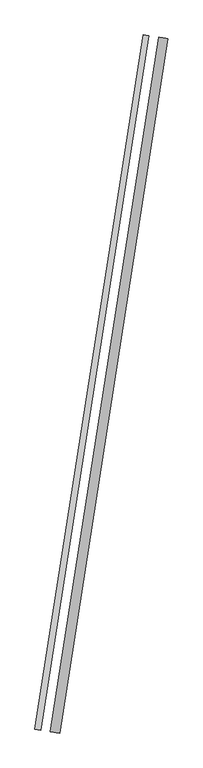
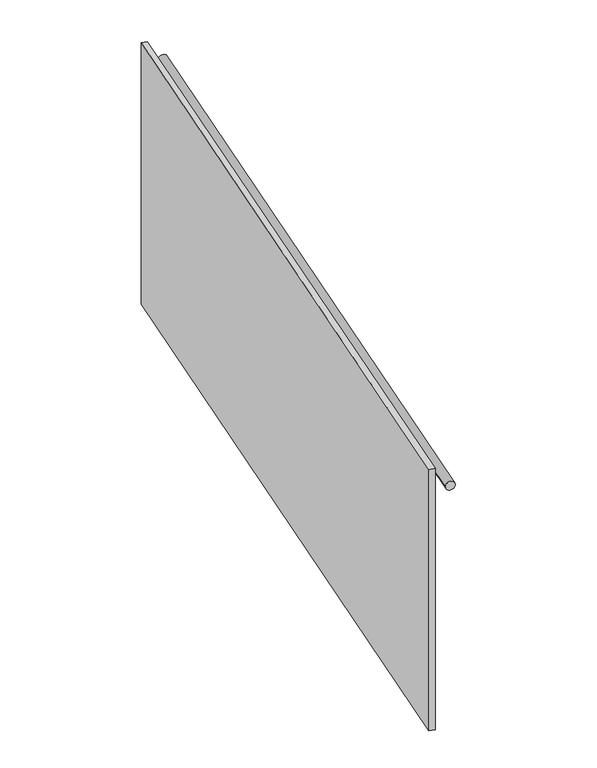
"""IFC4 building model written with IfcOpenShell, lengths in millimetres: railing geometry, Panel de vidrio - balcón."""

from ifc_helpers import new_model, si_unit, point, frame, origin, origin_2d, place, context, project, spatial, polyline, circle_curve, trimmed, segment, composite_curve, outline, extrude, source, transform, mapped, element, save


def railing_df676cf8(model_context):
    return source(origin(), model_context, "Body", "SweptSolid", [
        extrude(outline(polyline([(-52214.0917128, -76474.5084618), (-52189.3899801, -76478.3587086), (-52651.4195993, -79442.5666113), (-52676.121332, -79438.7163645), (-52214.0917128, -76474.5084618)])), frame((0.0, 0.0, 2945.385397), z_axis=(0.0, 0.0, 1.0), x_axis=(1.0, 0.0, 0.0)), (0.0, 0.0, 1.0), 1200.0),
        extrude(outline(composite_curve([segment(trimmed(circle_curve(origin_2d(), 20.0), [point((20.0, 0.0))], [point((-20.0, 0.0))], False, "CARTESIAN"), True, "CONTINUOUS"), segment(trimmed(circle_curve(origin_2d(), 20.0), [point((-20.0, 0.0))], [point((20.0, 0.0))], False, "CARTESIAN"), True, "CONTINUOUS")], self_intersect=False)), frame((-52590.2517812, -79452.1008089, 4050.0), z_axis=(0.15400987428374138, 0.988069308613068, 0.0), x_axis=(0.988069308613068, -0.15400987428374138, 0.0)), (0.0, 0.0, 1.0), 2999.9999766),
    ])


if __name__ == "__main__":
    model = new_model("IFC4")
    model_context = context("Model", 3, world=origin())
    ifc_project = project(units=[si_unit("LENGTHUNIT", "METRE", prefix="MILLI")], contexts=[model_context])
    site = spatial("IfcSite", under=ifc_project)
    building = spatial("IfcBuilding", under=site)
    placement = place(None, origin())
    railing_shape = railing_df676cf8(model_context)
    element("IfcRailing", 1, ObjectType="Panel de vidrio - balcón", at=placement, inside=building, context=model_context, shape_type="MappedRepresentation", body=[
        mapped(railing_shape, transform((0.0, 0.0, 0.0), x_axis=(1.0, 0.0, 0.0), y_axis=(0.0, 1.0, 0.0), z_axis=(0.0, 0.0, 1.0))),
    ])
    save(model, "model.ifc")
